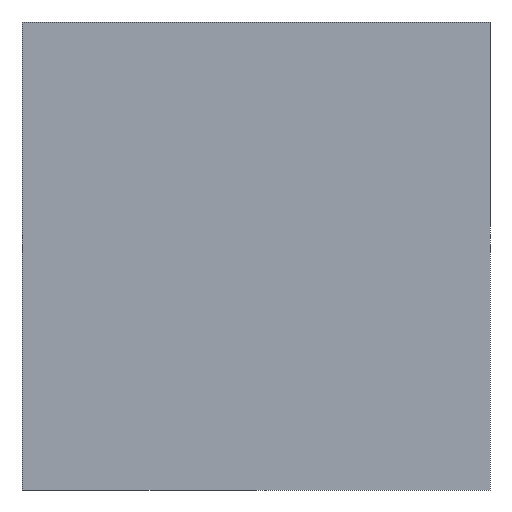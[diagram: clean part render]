
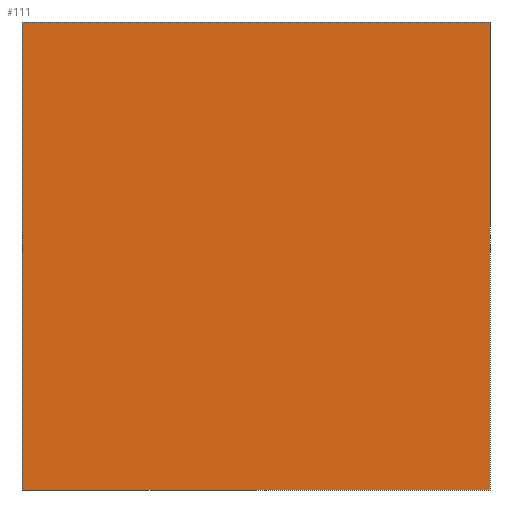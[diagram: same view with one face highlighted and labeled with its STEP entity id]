
A CAD part, left-side view. The second image highlights one B-rep face of the part: STEP entity #111.
In plain terms, the highlighted planar face has unit normal (-1, 0, 0).
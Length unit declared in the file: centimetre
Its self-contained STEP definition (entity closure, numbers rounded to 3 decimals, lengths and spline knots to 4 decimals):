
#2 = VERTEX_POINT ( 'NONE', #116 ) ;
#15 = DIRECTION ( 'NONE',  ( 0., -1., 0. ) ) ;
#39 = VERTEX_POINT ( 'NONE', #395 ) ;
#64 = LINE ( 'NONE', #221, #360 ) ;
#73 = VERTEX_POINT ( 'NONE', #304 ) ;
#103 = ORIENTED_EDGE ( 'NONE', *, *, #148, .F. ) ;
#111 = ADVANCED_FACE ( 'NONE', ( #146 ), #332, .F. ) ;
#115 = EDGE_CURVE ( 'NONE', #39, #377, #133, .T. ) ;
#116 = CARTESIAN_POINT ( 'NONE',  ( 0., 1000., 0. ) ) ;
#133 = LINE ( 'NONE', #489, #199 ) ;
#136 = CARTESIAN_POINT ( 'NONE',  ( 0., 1000., 1000. ) ) ;
#138 = DIRECTION ( 'NONE',  ( 0., 0., -1. ) ) ;
#139 = ORIENTED_EDGE ( 'NONE', *, *, #355, .T. ) ;
#146 = FACE_OUTER_BOUND ( 'NONE', #224, .T. ) ;
#148 = EDGE_CURVE ( 'NONE', #73, #39, #366, .T. ) ;
#175 = DIRECTION ( 'NONE',  ( 1., 0., 0. ) ) ;
#176 = CARTESIAN_POINT ( 'NONE',  ( 0., 0., 0. ) ) ;
#179 = DIRECTION ( 'NONE',  ( 0., 0., -1. ) ) ;
#181 = ORIENTED_EDGE ( 'NONE', *, *, #493, .T. ) ;
#183 = DIRECTION ( 'NONE',  ( 0., -1., 0. ) ) ;
#199 = VECTOR ( 'NONE', #179, 100. ) ;
#209 = CARTESIAN_POINT ( 'NONE',  ( 0., 1000., 1000. ) ) ;
#221 = CARTESIAN_POINT ( 'NONE',  ( 0., 1000., 0. ) ) ;
#224 = EDGE_LOOP ( 'NONE', ( #139, #425, #103, #181 ) ) ;
#274 = VECTOR ( 'NONE', #138, 100. ) ;
#304 = CARTESIAN_POINT ( 'NONE',  ( 0., 1000., 1000. ) ) ;
#332 = PLANE ( 'NONE',  #382 ) ;
#353 = VECTOR ( 'NONE', #183, 100. ) ;
#355 = EDGE_CURVE ( 'NONE', #2, #377, #64, .T. ) ;
#360 = VECTOR ( 'NONE', #15, 100. ) ;
#366 = LINE ( 'NONE', #136, #353 ) ;
#377 = VERTEX_POINT ( 'NONE', #176 ) ;
#382 = AXIS2_PLACEMENT_3D ( 'NONE', #209, #175, #409 ) ;
#395 = CARTESIAN_POINT ( 'NONE',  ( 0., 0., 1000. ) ) ;
#409 = DIRECTION ( 'NONE',  ( 0., 0., -1. ) ) ;
#425 = ORIENTED_EDGE ( 'NONE', *, *, #115, .F. ) ;
#449 = CARTESIAN_POINT ( 'NONE',  ( 0., 1000., 1000. ) ) ;
#488 = LINE ( 'NONE', #449, #274 ) ;
#489 = CARTESIAN_POINT ( 'NONE',  ( 0., 0., 1000. ) ) ;
#493 = EDGE_CURVE ( 'NONE', #73, #2, #488, .T. ) ;
